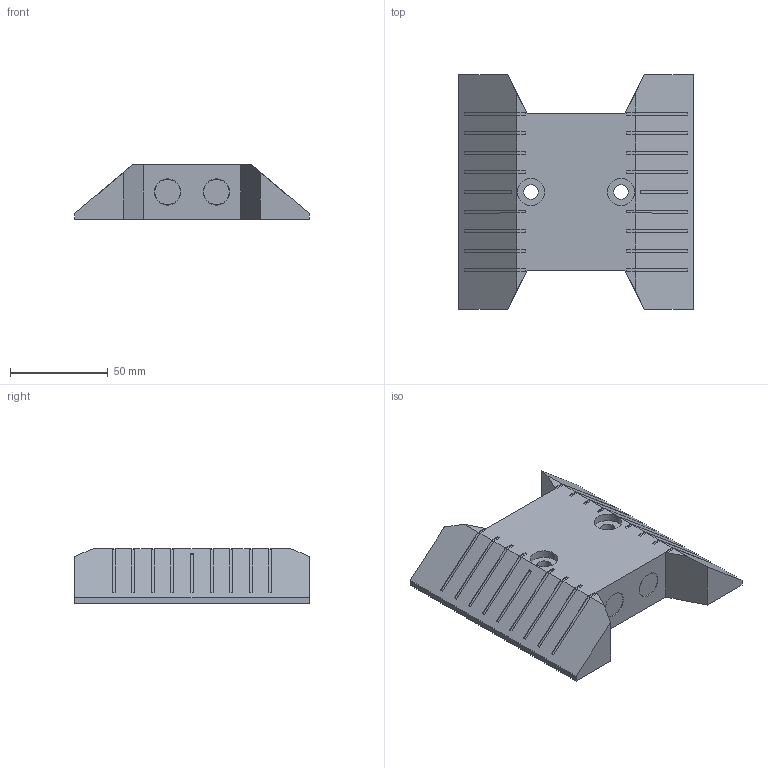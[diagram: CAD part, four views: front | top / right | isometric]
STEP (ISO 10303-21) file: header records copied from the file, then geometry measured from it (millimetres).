
FILE_DESCRIPTION(('FreeCAD Model'),'2;1');
FILE_NAME('Open CASCADE Shape Model','2026-10-09T00:07:36',('FreeCAD'),( 'FreeCAD'),'Open CASCADE STEP processor 7.8','FreeCAD','Unknown');
FILE_SCHEMA(('AUTOMOTIVE_DESIGN { 1 0 10303 214 1 1 1 1 }'));
Length unit declared in the file: millimetre
Products named in the file (1): Open CASCADE STEP translator 7.8 1
Bounding box: 120 x 120 x 28 mm (x, y, z)
Volume: 63924.6 mm3; surface area: 46010 mm2
Topology: 5 solids, 5 shells, 187 faces, 514 edges, 346 vertices
Faces by surface type: plane 163, cylinder 24
Full cylindrical faces by diameter (mm): 7.5 x2, 13 x4, 13.4 x4, 14 x2, 20 x2
Entity records: 5900 total; most frequent: CARTESIAN_POINT 1048, ORIENTED_EDGE 1028, DIRECTION 952, EDGE_CURVE 514, LINE 452, VECTOR 452, VERTEX_POINT 346, AXIS2_PLACEMENT_3D 250
